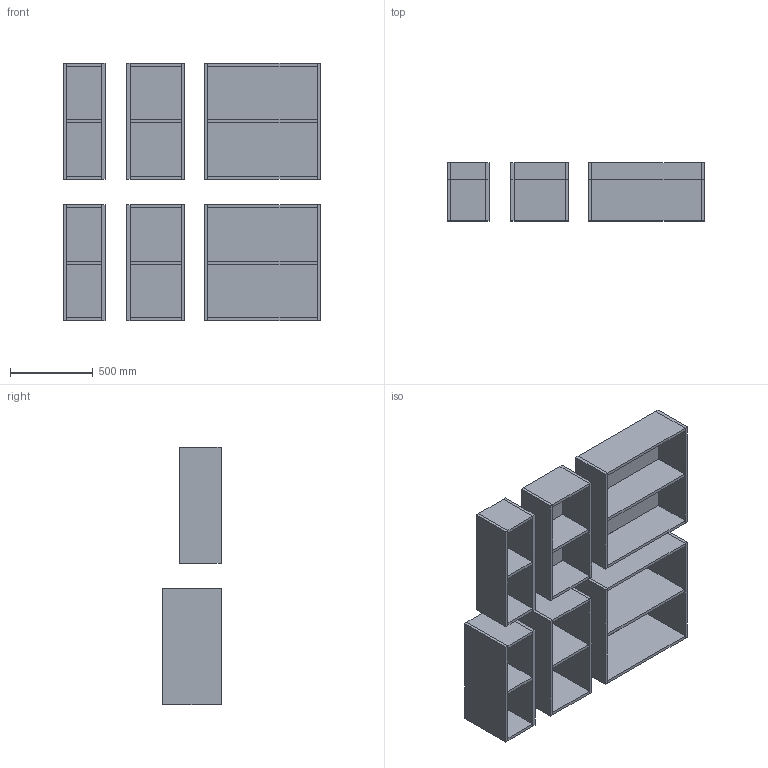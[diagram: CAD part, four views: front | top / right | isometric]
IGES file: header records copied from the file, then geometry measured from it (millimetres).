
Global section: file name: \\Archi-NAS\Comune\X GIOVANNI\MOBILI\BOXLINE\BOXLINE_TOTEM OPEN h 700.igs; native system: Rhinoceros ( Feb 23 2021 ); preprocessor: Trout Lake IGES 012 Feb 23 2021; date: 230607.154003; units: millimetre
Bounding box: 1547.95 x 350 x 1551.1 mm (x, y, z)
Surface area: 13298880 mm2 (no closed solid volume)
Topology: 0 solids, 0 shells, 216 faces, 864 edges, 864 vertices
Faces by surface type: bspline 216
